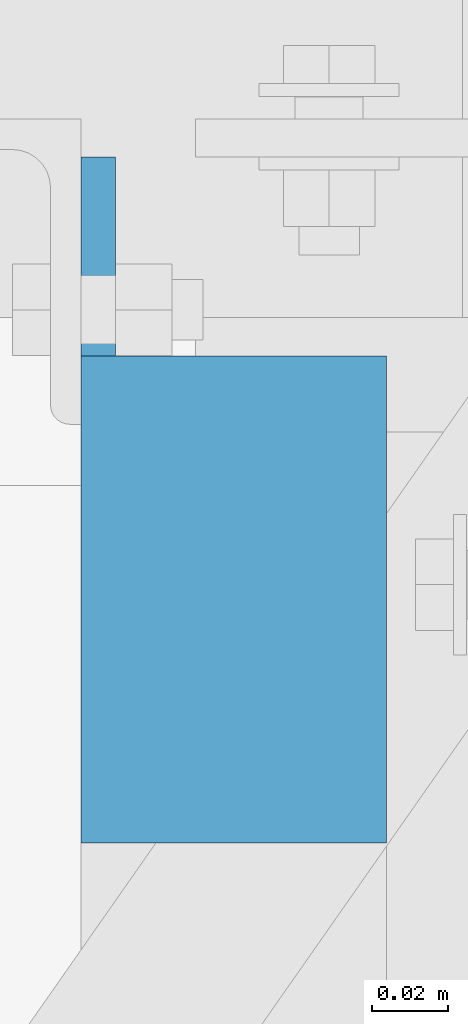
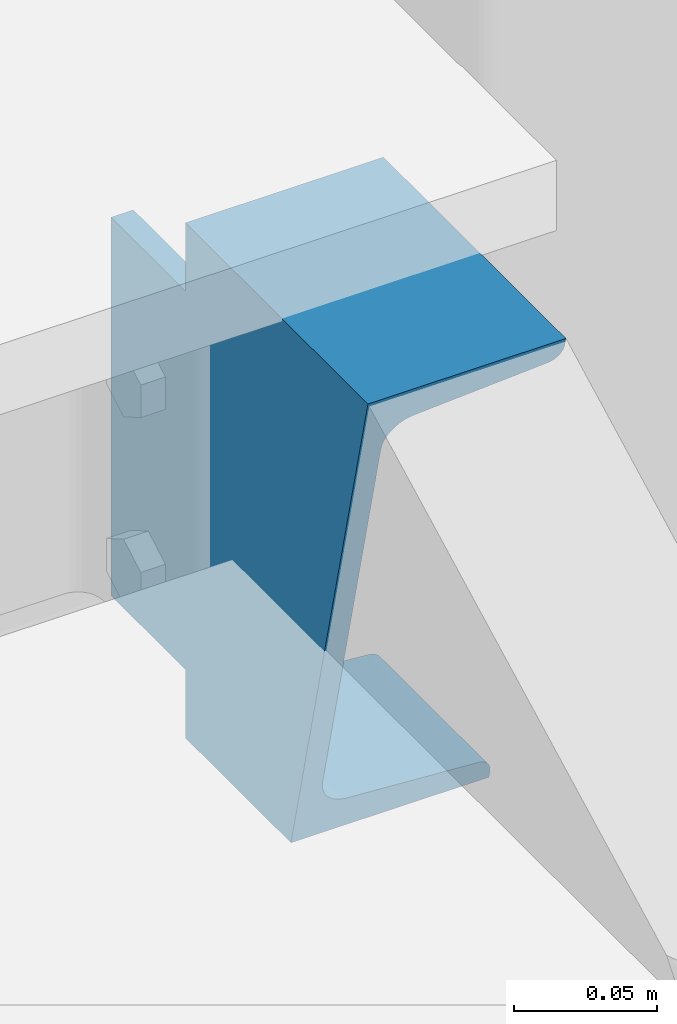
# One storey, part 46 of 78: 1 beam, 1 element without a shape of its own.
"""IFC2X3 building model written with IfcOpenShell, lengths in millimetres."""

import ifcopenshell
import ifcopenshell.guid

model = None  # the IFC model being written
_history = None  # IfcOwnerHistory: only IFC2X3 demands one
_inside = {}  # id of a spatial element -> (the spatial element, [elements in it])
_under = {}  # id of a project, library or spatial element -> (it, [spatial elements below it])
_declared = {}  # id of a project -> (the project, [libraries it declares])
_typed = {}  # id of a type object -> (the type object, [elements of that type])
_made_of = {}  # id of a material, layer set ... -> (it, [elements and type objects made of it])


def new_model(schema):
    """Start an empty IFC model of exactly this schema.

    Asked for "IFC4X3", IfcOpenShell would pick the latest addendum, in which some entities
    have other attributes; the version numbers below select the first issue.
    IFC2X3 requires an IfcOwnerHistory on every rooted entity: one is made here for all.
    """
    global model, _history
    if schema == "IFC4X3":
        model = ifcopenshell.file(schema_version=(4, 3, 0, 0))
    else:
        model = ifcopenshell.file(schema=schema)
    _inside.clear()
    _under.clear()
    _declared.clear()
    _typed.clear()
    _made_of.clear()
    _history = None
    if model.schema == "IFC2X3":
        org = make("IfcOrganization", Name="unknown")
        user = make(
            "IfcPersonAndOrganization",
            ThePerson=make("IfcPerson", FamilyName="unknown"),
            TheOrganization=org,
        )
        app = make(
            "IfcApplication",
            ApplicationDeveloper=org,
            Version="unknown",
            ApplicationFullName="unknown",
            ApplicationIdentifier="unknown",
        )
        _history = make(
            "IfcOwnerHistory",
            OwningUser=user,
            OwningApplication=app,
            ChangeAction="ADDED",
            CreationDate=0,
        )
    return model


def make(cls, **values):
    """One entity of the class cls with the attributes given. An attribute that is None is left unset."""
    return model.create_entity(
        cls, **{name: value for name, value in values.items() if value is not None}
    )


def rooted(cls, **values):
    """An entity with a GlobalId (a new one), such as an element, a storey or a relation."""
    return make(cls, GlobalId=ifcopenshell.guid.new(), OwnerHistory=_history, **values)


def si_unit(unit_type, name, prefix=None):
    """IfcSIUnit, for example si_unit("LENGTHUNIT", "METRE", prefix="MILLI")."""
    return make("IfcSIUnit", UnitType=unit_type, Prefix=prefix, Name=name)


def assignment(units):
    """IfcUnitAssignment: the units of a project."""
    return None if units is None else make("IfcUnitAssignment", Units=units)


def point(xyz):
    """IfcCartesianPoint."""
    return None if xyz is None else make("IfcCartesianPoint", Coordinates=xyz)


def direction(xyz):
    """IfcDirection."""
    return None if xyz is None else make("IfcDirection", DirectionRatios=xyz)


def frame(location, z_axis=None, x_axis=None):
    """IfcAxis2Placement3D, a coordinate frame: its origin and axes. An axis left out is left unset."""
    return make(
        "IfcAxis2Placement3D",
        Location=point(location),
        Axis=direction(z_axis),
        RefDirection=direction(x_axis),
    )


def frame_2d(location, x_axis=None):
    """IfcAxis2Placement2D, a coordinate frame in the plane: its origin and x axis."""
    return make(
        "IfcAxis2Placement2D", Location=point(location), RefDirection=direction(x_axis)
    )


def origin_with_axes():
    """The frame at (0, 0, 0) with the z axis (0, 0, 1) and the x axis (1, 0, 0) written out."""
    return frame((0.0, 0.0, 0.0), z_axis=(0.0, 0.0, 1.0), x_axis=(1.0, 0.0, 0.0))


def origin_2d_with_axis():
    """The frame at (0, 0) in the plane with the x axis (1, 0) written out."""
    return frame_2d((0.0, 0.0), x_axis=(1.0, 0.0))


def place(relative_to, where):
    """IfcLocalPlacement: puts the frame where relative to a parent placement (None: the world)."""
    return make(
        "IfcLocalPlacement", PlacementRelTo=relative_to, RelativePlacement=where
    )


def context(
    kind, dimensions, precision=None, world=None, true_north=None, identifier=None
):
    """IfcGeometricRepresentationContext, for example the 3D "Model" context."""
    return make(
        "IfcGeometricRepresentationContext",
        ContextIdentifier=identifier,
        ContextType=kind,
        CoordinateSpaceDimension=dimensions,
        Precision=precision,
        WorldCoordinateSystem=world,
        TrueNorth=true_north,
    )


def subcontext(parent, identifier, kind, view, scale=None):
    """IfcGeometricRepresentationSubContext, for example "Body" below "Model"."""
    return make(
        "IfcGeometricRepresentationSubContext",
        ContextIdentifier=identifier,
        ContextType=kind,
        ParentContext=parent,
        TargetScale=scale,
        TargetView=view,
    )


def project(units=None, contexts=None):
    """IfcProject with its units and contexts."""
    return rooted(
        "IfcProject",
        Name="project",
        RepresentationContexts=contexts,
        UnitsInContext=assignment(units),
    )


def spatial(cls, under=None, at=None, **own):
    """A site, building, storey or space (cls), placed at a placement, below another one or the project."""
    s = rooted(cls, ObjectPlacement=at, **own)
    if under is not None:
        _under.setdefault(under.id(), (under, []))[1].append(s)
    return s


def polyline(points):
    """IfcPolyline through the points."""
    return make("IfcPolyline", Points=[point(p) for p in points])


def profile(cls, at=None, kind="AREA", **sizes):
    """A parametric profile (cls). Its sizes go by their IFC names, for example OverallWidth=200.0."""
    return make(cls, ProfileType=kind, Position=at, **sizes)


def u_section(**sizes):
    """IfcUShapeProfileDef."""
    return profile("IfcUShapeProfileDef", **sizes)


def outline(outer, holes=None, kind="AREA"):
    """IfcArbitraryClosedProfileDef: a profile drawn as a closed curve; with holes, ...WithVoids."""
    if holes is None:
        return make("IfcArbitraryClosedProfileDef", ProfileType=kind, OuterCurve=outer)
    return make(
        "IfcArbitraryProfileDefWithVoids",
        ProfileType=kind,
        OuterCurve=outer,
        InnerCurves=holes,
    )


def extrude(swept, where, along, depth):
    """IfcExtrudedAreaSolid: the profile swept, set in the frame where, extruded along a direction by depth."""
    return make(
        "IfcExtrudedAreaSolid",
        SweptArea=swept,
        Position=where,
        ExtrudedDirection=direction(along),
        Depth=depth,
    )


def boolean(op, a, b):
    """IfcBooleanResult of two solids."""
    return make("IfcBooleanResult", Operator=op, FirstOperand=a, SecondOperand=b)


def halfspace(plane, agree):
    """IfcHalfSpaceSolid: all space on one side of the plane z = 0 of the frame plane."""
    return make(
        "IfcHalfSpaceSolid",
        BaseSurface=make("IfcPlane", Position=plane),
        AgreementFlag=agree,
    )


def shape(context_of_items, identifier, shape_type, items):
    """IfcShapeRepresentation: the items that make up one representation, for example the "Body"."""
    return make(
        "IfcShapeRepresentation",
        ContextOfItems=context_of_items,
        RepresentationIdentifier=identifier,
        RepresentationType=shape_type,
        Items=items,
    )


def material(Name=None, Category=None):
    """IfcMaterial."""
    return make("IfcMaterial", Name=Name, Category=Category)


def made_of(thing, what):
    """Note that an element or type object is made of a material, layer set ...; save() writes the relation."""
    if what is not None:
        _made_of.setdefault(what.id(), (what, []))[1].append(thing)
    return thing


def type_object(cls, material=None, **own):
    """A type object (cls), such as IfcWallType, which elements share."""
    return made_of(rooted(cls, **own), material)


def element(
    cls,
    number,
    at=None,
    inside=None,
    cuts=None,
    type_object=None,
    material=None,
    context=None,
    identifier="Body",
    shape_type=None,
    held_by="IfcProductDefinitionShape",
    body=None,
    shapes=None,
    **own,
):
    """One element of the class cls, such as IfcWall. Its Tag is "e" and its number.

    at: its placement. inside: the storey or other place that contains it. cuts: it is an
    opening in that element (IfcRelVoidsElement). A single representation is given by context,
    identifier, shape_type and body (its items); several are given by shapes. held_by: the class
    of the entity that holds the representations. save() writes the other relations.
    """
    e = rooted(cls, Tag="e%d" % number, ObjectPlacement=at, **own)
    if body is not None:
        shapes = [shape(context, identifier, shape_type, body)]
    if shapes is not None:
        e.Representation = make(held_by, Representations=shapes)
    if inside is not None:
        _inside.setdefault(inside.id(), (inside, []))[1].append(e)
    if cuts is not None:
        rooted(
            "IfcRelVoidsElement", RelatingBuildingElement=cuts, RelatedOpeningElement=e
        )
    if type_object is not None:
        _typed.setdefault(type_object.id(), (type_object, []))[1].append(e)
    return made_of(e, material)


def aggregate(whole, parts):
    """IfcRelAggregates: a whole, such as a stair, and the parts it consists of."""
    return rooted("IfcRelAggregates", RelatingObject=whole, RelatedObjects=parts)


def save(model, path):
    """Write the relations noted so far, then the file.

    IfcRelAggregates (storeys below a building ...), IfcRelContainedInSpatialStructure (elements
    in a storey), IfcRelDefinesByType, IfcRelAssociatesMaterial and IfcRelDeclares: one each for
    every whole, place, type object, material and project.
    """
    for whole, parts in _under.values():
        aggregate(whole, parts)
    for where, things in _inside.values():
        rooted(
            "IfcRelContainedInSpatialStructure",
            RelatedElements=things,
            RelatingStructure=where,
        )
    for kind, things in _typed.values():
        rooted("IfcRelDefinesByType", RelatedObjects=things, RelatingType=kind)
    for what, things in _made_of.values():
        rooted("IfcRelAssociatesMaterial", RelatedObjects=things, RelatingMaterial=what)
    for by, libraries in _declared.values():
        rooted("IfcRelDeclares", RelatingContext=by, RelatedDefinitions=libraries)
    model.write(path)


model = new_model("IFC2X3")

# Units and contexts
model_context = context("Model", 3, precision=1e-05, world=origin_with_axes())
body_context = subcontext(model_context, "Body", "Model", "MODEL_VIEW")
ifc_project = project(units=[si_unit("LENGTHUNIT", "METRE", prefix="MILLI"), si_unit("AREAUNIT", "SQUARE_METRE"), si_unit("VOLUMEUNIT", "CUBIC_METRE"), si_unit("MASSUNIT", "GRAM", prefix="KILO"), si_unit("TIMEUNIT", "SECOND"), si_unit("PLANEANGLEUNIT", "RADIAN"), si_unit("SOLIDANGLEUNIT", "STERADIAN"), si_unit("THERMODYNAMICTEMPERATUREUNIT", "DEGREE_CELSIUS"), si_unit("LUMINOUSINTENSITYUNIT", "LUMEN")], contexts=[model_context])

# Site, building, storey
site_placement = place(None, origin_with_axes())
site = spatial("IfcSite", under=ifc_project, at=site_placement, Name="Site", CompositionType="ELEMENT")
building_placement = place(site_placement, origin_with_axes())
building = spatial("IfcBuilding", under=site, at=building_placement, Name="Undefined", CompositionType="ELEMENT")
storey_placement = place(building_placement, origin_with_axes())
storey = spatial("IfcBuildingStorey", under=building, at=storey_placement, Name="Undefined", CompositionType="ELEMENT", Elevation=0.0)

# Assembly, beam
assembly_placement = place(storey_placement, origin_with_axes())
assembly = element("IfcElementAssembly", 1, at=assembly_placement, inside=storey, AssemblyPlace="NOTDEFINED", PredefinedType="RIGID_FRAME")
ifc_material = material(Name="STEEL/S275JR")
beam_type = type_object("IfcBeamType", Name="UPN220", PredefinedType="NOTDEFINED")
beam_placement = place(assembly_placement, frame((-33361.429999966, 9915.35294108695, 150760.039999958), z_axis=(0.0, 0.0, 1.0), x_axis=(0.0, 1.0, 0.0)))
beam = element("IfcBeam", 2, at=beam_placement, type_object=beam_type, material=ifc_material, Name="LIMON", ObjectType="UPN220", context=body_context, shape_type="CSG", body=[
    boolean("DIFFERENCE", boolean("DIFFERENCE", boolean("DIFFERENCE", boolean("DIFFERENCE", extrude(u_section(Depth=220.0, FlangeWidth=80.0, WebThickness=9.0, FlangeThickness=12.5, FilletRadius=12.5, EdgeRadius=6.5, FlangeSlope=0.0798299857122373, at=origin_2d_with_axis()), frame((206.875695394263, 0.0, 0.0), z_axis=(-1.0, 0.0, 0.0), x_axis=(0.0, -1.0, 0.0)), (0.0, 0.0, 1.0), 207.14), extrude(outline(polyline([(0.0, 0.0), (62.0499999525, 0.0), (62.0499999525, 39.1999996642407), (0.0, 39.1999996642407), (0.0, 0.0)])), frame((189.697058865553, -50.0, 80.8000002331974), z_axis=(0.0, 1.0, 0.0), x_axis=(-1.0, 0.0, 0.0)), (0.0, 0.0, 1.0), 100.0)), extrude(outline(polyline([(0.0, 0.0), (62.0499999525, 0.0), (62.0499999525, 39.1999996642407), (0.0, 39.1999996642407), (0.0, 0.0)])), frame((189.697058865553, 50.0, -80.8000001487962), z_axis=(0.0, -1.0, 0.0), x_axis=(-1.0, 0.0, 0.0)), (0.0, 0.0, 1.0), 100.0)), halfspace(frame((179.697058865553, 0.0, 210.0), z_axis=(1.0, 0.0, 0.0), x_axis=(0.0, 1.0, 0.0)), False)), halfspace(frame((-1.64160519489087e-06, -39.9999999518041, 109.99999989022), z_axis=(-0.971356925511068, 0.0, -0.237625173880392), x_axis=(0.0, -1.0, 0.0)), False)),
])
aggregate(assembly, [beam])

save(model, "model.ifc")
